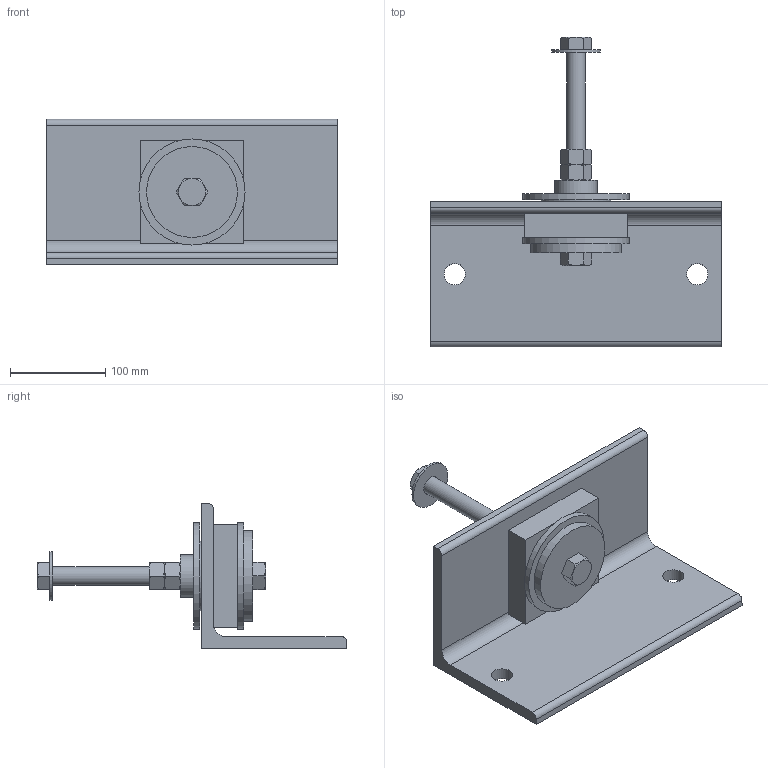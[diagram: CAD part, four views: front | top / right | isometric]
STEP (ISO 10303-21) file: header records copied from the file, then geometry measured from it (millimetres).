
FILE_DESCRIPTION((''),'2;1');
FILE_NAME('C:\2012_Work\Designs\Z-1225\Z-1225-2000\A-31447 Z-1225-2000.stp','2013-10-02T15:16:35',('KShiels'),(''),'Autodesk Inventor 2012','Autodesk Inventor 2012','');
FILE_SCHEMA(('AUTOMOTIVE_DESIGN { 1 0 10303 214 1 1 1 1 }'));
Length unit declared in the file: inch
Products named in the file (11): A-31447 Z-1225-2000; A-31449 TAPPED SLEEVE; A-31448 ANGLE ASSY; A-31448 ANGLE PLATE; A-31448 ANGLE; A-31449 3.75 OD WASHER; A-31449 BUSHING; Hex Nut - Inch 3/4 - 10; Plain Washer (Inch) 3/4 - Regular - Type B; A-31449 0.75 x 1.5in BOLT; A-31449 0.75 x 6in BOLT
Assembly tree (11 placements, depth 3):
  A-31447 Z-1225-2000
    A-31449 TAPPED SLEEVE
    A-31448 ANGLE ASSY
      A-31448 ANGLE PLATE
      A-31448 ANGLE
    A-31449 3.75 OD WASHER
    A-31449 BUSHING
    Hex Nut - Inch 3/4 - 10  x2
    Plain Washer (Inch) 3/4 - Regular - Type B
    A-31449 0.75 x 1.5in BOLT
    A-31449 0.75 x 6in BOLT
Bounding box: 304.8 x 324.46 x 152.4 mm (x, y, z)
Volume: 1642412.2 mm3; surface area: 324714.7 mm2
Topology: 10 solids, 10 shells, 155 faces, 367 edges, 236 vertices
Faces by surface type: plane 60, cylinder 34, cone 32, bspline 29
Full cylindrical faces by diameter (mm): 15.951 x1, 16.307 x2, 19.05 x14, 19.844 x1, 20.625 x1, 22.225 x2, 44.45 x1, 50.8 x1, 60.325 x1, 73.025 x1, 74.613 x2, 95.25 x1, 111.125 x2
Entity records: 8609 total; most frequent: CARTESIAN_POINT 5937, ORIENTED_EDGE 500, DIRECTION 410, EDGE_CURVE 250, VERTEX_POINT 175, AXIS2_PLACEMENT_3D 172, EDGE_LOOP 163, FACE_OUTER_BOUND 119
